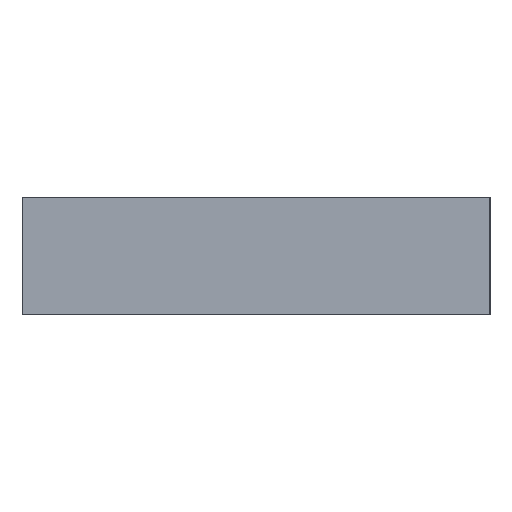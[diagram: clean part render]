
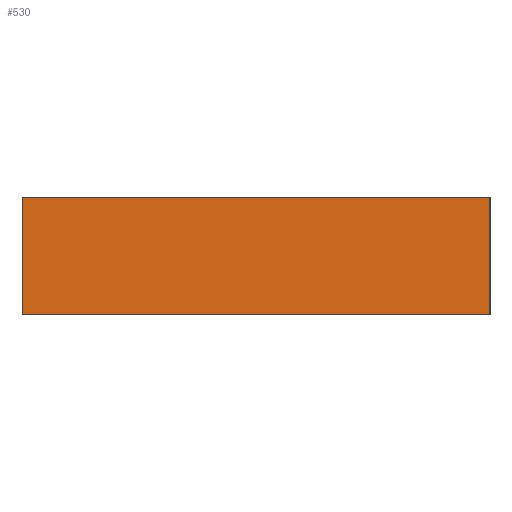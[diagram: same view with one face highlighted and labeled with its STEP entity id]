
A CAD part, left-side view. The second image highlights one B-rep face of the part: STEP entity #530.
In plain terms, the highlighted planar face has unit normal (-1, 0, 0).
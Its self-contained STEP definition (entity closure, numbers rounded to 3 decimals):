
#1 = CARTESIAN_POINT ( 'NONE',  ( -254., 479., 120. ) ) ;
#18 = VERTEX_POINT ( 'NONE', #62 ) ;
#24 = VERTEX_POINT ( 'NONE', #75 ) ;
#36 = VERTEX_POINT ( 'NONE', #1 ) ;
#41 = VERTEX_POINT ( 'NONE', #66 ) ;
#62 = CARTESIAN_POINT ( 'NONE',  ( -254., 479., 0. ) ) ;
#66 = CARTESIAN_POINT ( 'NONE',  ( -254., 0., 0. ) ) ;
#75 = CARTESIAN_POINT ( 'NONE',  ( -254., 0., 120. ) ) ;
#164 = CARTESIAN_POINT ( 'NONE',  ( -254., 479., 120. ) ) ;
#167 = DIRECTION ( 'NONE',  ( 0., 0., -1. ) ) ;
#228 = CARTESIAN_POINT ( 'NONE',  ( -254., 0., 120. ) ) ;
#229 = DIRECTION ( 'NONE',  ( 0., 0., -1. ) ) ;
#261 = CARTESIAN_POINT ( 'NONE',  ( -254., 0., 0. ) ) ;
#262 = DIRECTION ( 'NONE',  ( 0., -1., 0. ) ) ;
#266 = CARTESIAN_POINT ( 'NONE',  ( -254., 0., 120. ) ) ;
#267 = DIRECTION ( 'NONE',  ( 0., -1., 0. ) ) ;
#284 = PLANE ( 'NONE',  #460 ) ;
#288 = CARTESIAN_POINT ( 'NONE',  ( -254., 0., 120. ) ) ;
#298 = DIRECTION ( 'NONE',  ( 1., 0., 0. ) ) ;
#299 = DIRECTION ( 'NONE',  ( 0., 1., 0. ) ) ;
#449 = EDGE_CURVE ( 'NONE', #36, #18, #819, .T. ) ;
#460 = AXIS2_PLACEMENT_3D ( 'NONE', #288, #298, #299 ) ;
#494 = EDGE_CURVE ( 'NONE', #24, #41, #883, .T. ) ;
#515 = EDGE_CURVE ( 'NONE', #18, #41, #915, .T. ) ;
#517 = EDGE_CURVE ( 'NONE', #36, #24, #919, .T. ) ;
#530 = ADVANCED_FACE ( 'NONE', ( #933 ), #284, .F. ) ;
#605 = ORIENTED_EDGE ( 'NONE', *, *, #517, .F. ) ;
#617 = ORIENTED_EDGE ( 'NONE', *, *, #494, .F. ) ;
#618 = ORIENTED_EDGE ( 'NONE', *, *, #515, .T. ) ;
#660 = EDGE_LOOP ( 'NONE', ( #618, #617, #605, #703 ) ) ;
#703 = ORIENTED_EDGE ( 'NONE', *, *, #449, .T. ) ;
#819 = LINE ( 'NONE', #164, #824 ) ;
#824 = VECTOR ( 'NONE', #167, 1000. ) ;
#883 = LINE ( 'NONE', #228, #884 ) ;
#884 = VECTOR ( 'NONE', #229, 1000. ) ;
#915 = LINE ( 'NONE', #261, #916 ) ;
#916 = VECTOR ( 'NONE', #262, 1000. ) ;
#919 = LINE ( 'NONE', #266, #920 ) ;
#920 = VECTOR ( 'NONE', #267, 1000. ) ;
#933 = FACE_OUTER_BOUND ( 'NONE', #660, .T. ) ;
